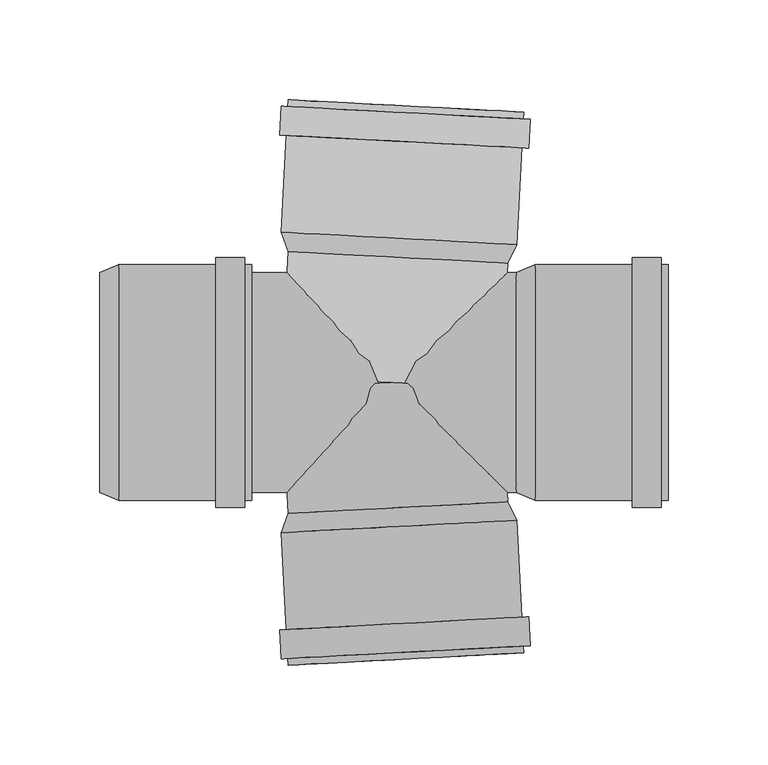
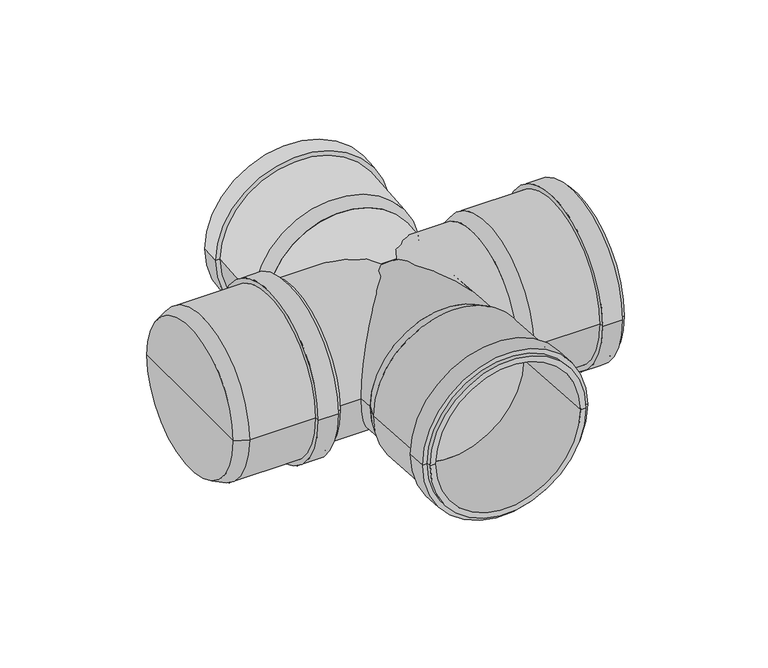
"""IFC4 building model written with IfcOpenShell, lengths in millimetres: pipe fitting geometry, pf_HTDA : pf_HTDA."""

from ifc_helpers import new_model, si_unit, point, frame, origin, origin_2d, place, context, project, spatial, polyline, circle_curve, trimmed, segment, composite_curve, outline, extrude, source, transform, mapped, element, save
from ifc_brep_helpers import plane_surface, cylinder_surface, revolved_surface, advanced_brep


def pipe_fitting_e0f2e87f(model_context):
    return source(origin(), model_context, "Body", "SolidModel", [
        advanced_brep(
        [(58.2113225, 59.8354572, 0.0), (-51.6379264, 65.5924124, 0.0), (-55.2351159, 75.2939704, 0.0), (62.8028951, 69.1078603, 0.0), (3.2866981, 62.7139348, 0.0), (66.2832362, 135.5167244, 0.0), (-51.7547748, 141.7028344, 0.0), (-47.6603937, 141.488257, 0.0), (62.1888551, 135.7313018, 0.0), (66.105294, 132.121384, 0.0), (-51.932717, 138.307494, 0.0), (69.5006344, 131.9434417, 0.0), (-55.3280574, 138.4854363, 0.0), (68.741763, 117.4633135, 0.0), (-56.0869288, 124.005308, 0.0), (65.3464226, 117.6412557, 0.0), (-52.6915884, 123.8273658, 0.0), (58.708514, 69.3224378, 0.0), (-51.1407348, 75.079393, 0.0), (3.7838896, 72.2009154, 0.0)],
        [
            (0, 1, circle_curve(frame((3.2866981, 62.7139348, 0.0), z_axis=(0.05233595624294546, 0.9986295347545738, 0.0), x_axis=(-0.9986295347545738, 0.05233595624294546, 0.0)), 55.0)),
            (1, 2),
            (2, 3, circle_curve(frame((3.7838896, 72.2009154, 0.0), z_axis=(-0.05233595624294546, -0.9986295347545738, 0.0), x_axis=(-0.9986295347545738, 0.05233595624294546, 0.0)), 59.1)),
            (3, 0),
            (1, 0, circle_curve(frame((3.2866981, 62.7139348, 0.0), z_axis=(0.05233595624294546, 0.9986295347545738, 0.0), x_axis=(-0.9986295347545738, 0.05233595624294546, 0.0)), 55.0)),
            (3, 2, circle_curve(frame((3.7838896, 72.2009154, 0.0), z_axis=(-0.05233595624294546, -0.9986295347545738, 0.0), x_axis=(-0.9986295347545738, 0.05233595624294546, 0.0)), 59.1)),
            (4, 1),
            (0, 4),
            (5, 6, circle_curve(frame((7.2642307, 138.6097794, 0.0), z_axis=(0.05233595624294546, 0.9986295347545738, 0.0), x_axis=(-0.9986295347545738, 0.05233595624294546, 0.0)), 59.1)),
            (6, 7),
            (7, 8, circle_curve(frame((7.2642307, 138.6097794, 0.0), z_axis=(-0.05233595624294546, -0.9986295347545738, 0.0), x_axis=(-0.9986295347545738, 0.05233595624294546, 0.0)), 55.0)),
            (8, 5),
            (6, 5, circle_curve(frame((7.2642307, 138.6097794, 0.0), z_axis=(0.05233595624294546, 0.9986295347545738, 0.0), x_axis=(-0.9986295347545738, 0.05233595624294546, 0.0)), 59.1)),
            (8, 7, circle_curve(frame((7.2642307, 138.6097794, 0.0), z_axis=(-0.05233595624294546, -0.9986295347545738, 0.0), x_axis=(-0.9986295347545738, 0.05233595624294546, 0.0)), 55.0)),
            (9, 10, circle_curve(frame((7.0862885, 135.214439, 0.0), z_axis=(0.05233595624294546, 0.9986295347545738, 0.0), x_axis=(-0.9986295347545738, 0.05233595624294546, 0.0)), 59.1)),
            (10, 6),
            (5, 9),
            (10, 9, circle_curve(frame((7.0862885, 135.214439, 0.0), z_axis=(0.05233595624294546, 0.9986295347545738, 0.0), x_axis=(-0.9986295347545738, 0.05233595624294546, 0.0)), 59.1)),
            (11, 12, circle_curve(frame((7.0862885, 135.214439, 0.0), z_axis=(0.05233595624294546, 0.9986295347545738, 0.0), x_axis=(-0.9986295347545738, 0.05233595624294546, 0.0)), 62.5)),
            (12, 10),
            (9, 11),
            (12, 11, circle_curve(frame((7.0862885, 135.214439, 0.0), z_axis=(0.05233595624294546, 0.9986295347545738, 0.0), x_axis=(-0.9986295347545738, 0.05233595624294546, 0.0)), 62.5)),
            (13, 14, circle_curve(frame((6.3274171, 120.7343108, 0.0), z_axis=(0.05233595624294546, 0.9986295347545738, 0.0), x_axis=(-0.9986295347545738, 0.05233595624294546, 0.0)), 62.5)),
            (14, 12),
            (11, 13),
            (14, 13, circle_curve(frame((6.3274171, 120.7343108, 0.0), z_axis=(0.05233595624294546, 0.9986295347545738, 0.0), x_axis=(-0.9986295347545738, 0.05233595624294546, 0.0)), 62.5)),
            (15, 16, circle_curve(frame((6.3274171, 120.7343108, 0.0), z_axis=(0.05233595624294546, 0.9986295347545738, 0.0), x_axis=(-0.9986295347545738, 0.05233595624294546, 0.0)), 59.1)),
            (16, 14),
            (13, 15),
            (16, 15, circle_curve(frame((6.3274171, 120.7343108, 0.0), z_axis=(0.05233595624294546, 0.9986295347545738, 0.0), x_axis=(-0.9986295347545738, 0.05233595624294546, 0.0)), 59.1)),
            (2, 16),
            (15, 3),
            (17, 18, circle_curve(frame((3.7838896, 72.2009154, 0.0), z_axis=(0.05233595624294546, 0.9986295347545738, 0.0), x_axis=(-0.9986295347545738, 0.05233595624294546, 0.0)), 55.0)),
            (18, 19),
            (19, 17),
            (18, 17, circle_curve(frame((3.7838896, 72.2009154, 0.0), z_axis=(0.05233595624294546, 0.9986295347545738, 0.0), x_axis=(-0.9986295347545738, 0.05233595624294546, 0.0)), 55.0)),
            (7, 18),
            (17, 8),
        ],
        [
            revolved_surface(polyline([(-55.2351159, 75.2939704, 0.0), (-51.6379264, 65.5924124, 0.0)]), (3.2866981, 62.7139348, 0.0), (-0.05233595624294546, -0.9986295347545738, 0.0)),
            plane_surface(frame((3.2866981, 62.7139348, 0.0), z_axis=(-0.05233595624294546, -0.9986295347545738, 0.0), x_axis=(-0.9986295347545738, 0.05233595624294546, 0.0))),
            plane_surface(frame((7.2642307, 138.6097794, 0.0), z_axis=(0.05233595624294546, 0.9986295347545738, 0.0), x_axis=(-0.9986295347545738, 0.05233595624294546, 0.0))),
            cylinder_surface(frame((3.2866981, 62.7139348, 0.0), z_axis=(-0.05233595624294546, -0.9986295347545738, 0.0), x_axis=(-0.9986295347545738, 0.05233595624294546, 0.0)), 59.1),
            plane_surface(frame((7.0862885, 135.214439, 0.0), z_axis=(0.05233595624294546, 0.9986295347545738, 0.0), x_axis=(-0.9986295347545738, 0.05233595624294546, 0.0))),
            cylinder_surface(frame((3.2866981, 62.7139348, 0.0), z_axis=(-0.05233595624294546, -0.9986295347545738, 0.0), x_axis=(-0.9986295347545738, 0.05233595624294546, 0.0)), 62.5),
            plane_surface(frame((6.3274171, 120.7343108, 0.0), z_axis=(-0.05233595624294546, -0.9986295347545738, 0.0), x_axis=(-0.9986295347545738, 0.05233595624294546, 0.0))),
            plane_surface(frame((3.7838896, 72.2009154, 0.0), z_axis=(0.05233595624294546, 0.9986295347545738, 0.0), x_axis=(-0.9986295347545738, 0.05233595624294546, 0.0))),
            revolved_surface(polyline([(-51.14073472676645, 75.07939298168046, 0.0), (-47.660393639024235, 141.4882569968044, 0.0)]), (3.2866981, 62.7139348, 0.0), (-0.05233595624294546, -0.9986295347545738, 0.0)),
        ],
        [
            (0, [[1, 2, 3, 4]]),
            (0, [[5, -4, 6, -2]]),
            (1, [[7, -1, 8]]),
            (1, [[-8, -5, -7]]),
            (2, [[9, 10, 11, 12]]),
            (2, [[13, -12, 14, -10]]),
            (3, [[15, 16, -9, 17]]),
            (3, [[18, -17, -13, -16]]),
            (4, [[19, 20, -15, 21]]),
            (4, [[22, -21, -18, -20]]),
            (5, [[23, 24, -19, 25]]),
            (5, [[26, -25, -22, -24]]),
            (6, [[27, 28, -23, 29]]),
            (6, [[30, -29, -26, -28]]),
            (3, [[-3, 31, -27, 32]]),
            (3, [[-6, -32, -30, -31]]),
            (7, [[33, 34, 35]]),
            (7, [[36, -35, -34]]),
            (8, [[-11, 37, -33, 38]]),
            (8, [[-14, -38, -36, -37]]),
        ],
    ),
        advanced_brep(
        [(-51.6379264, -65.5924124, 0.0), (58.2113225, -59.8354572, 0.0), (62.8028951, -69.1078603, 0.0), (-55.2351159, -75.2939704, 0.0), (3.2866981, -62.7139348, 0.0), (-51.7547748, -141.7028344, 0.0), (66.2832362, -135.5167244, 0.0), (62.1888551, -135.7313018, 0.0), (-47.6603937, -141.488257, 0.0), (-51.932717, -138.307494, 0.0), (66.105294, -132.121384, 0.0), (-55.3280574, -138.4854363, 0.0), (69.5006344, -131.9434417, 0.0), (-56.0869288, -124.005308, 0.0), (68.741763, -117.4633135, 0.0), (-52.6915884, -123.8273658, 0.0), (65.3464226, -117.6412557, 0.0), (-51.1407348, -75.079393, 0.0), (58.708514, -69.3224378, 0.0), (3.7838896, -72.2009154, 0.0)],
        [
            (0, 1, circle_curve(frame((3.2866981, -62.7139348, 0.0), z_axis=(0.05233595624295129, -0.9986295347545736, 0.0), x_axis=(0.9986295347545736, 0.05233595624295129, 0.0)), 55.0)),
            (1, 2),
            (2, 3, circle_curve(frame((3.7838896, -72.2009154, 0.0), z_axis=(-0.05233595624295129, 0.9986295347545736, 0.0), x_axis=(0.9986295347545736, 0.05233595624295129, 0.0)), 59.1)),
            (3, 0),
            (1, 0, circle_curve(frame((3.2866981, -62.7139348, 0.0), z_axis=(0.05233595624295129, -0.9986295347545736, 0.0), x_axis=(0.9986295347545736, 0.05233595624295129, 0.0)), 55.0)),
            (3, 2, circle_curve(frame((3.7838896, -72.2009154, 0.0), z_axis=(-0.05233595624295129, 0.9986295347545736, 0.0), x_axis=(0.9986295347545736, 0.05233595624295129, 0.0)), 59.1)),
            (4, 1),
            (0, 4),
            (5, 6, circle_curve(frame((7.2642307, -138.6097794, 0.0), z_axis=(0.05233595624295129, -0.9986295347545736, 0.0), x_axis=(0.9986295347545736, 0.05233595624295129, 0.0)), 59.1)),
            (6, 7),
            (7, 8, circle_curve(frame((7.2642307, -138.6097794, 0.0), z_axis=(-0.05233595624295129, 0.9986295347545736, 0.0), x_axis=(0.9986295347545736, 0.05233595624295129, 0.0)), 55.0)),
            (8, 5),
            (6, 5, circle_curve(frame((7.2642307, -138.6097794, 0.0), z_axis=(0.05233595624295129, -0.9986295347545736, 0.0), x_axis=(0.9986295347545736, 0.05233595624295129, 0.0)), 59.1)),
            (8, 7, circle_curve(frame((7.2642307, -138.6097794, 0.0), z_axis=(-0.05233595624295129, 0.9986295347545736, 0.0), x_axis=(0.9986295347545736, 0.05233595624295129, 0.0)), 55.0)),
            (9, 10, circle_curve(frame((7.0862885, -135.214439, 0.0), z_axis=(0.05233595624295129, -0.9986295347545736, 0.0), x_axis=(0.9986295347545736, 0.05233595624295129, 0.0)), 59.1)),
            (10, 6),
            (5, 9),
            (10, 9, circle_curve(frame((7.0862885, -135.214439, 0.0), z_axis=(0.05233595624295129, -0.9986295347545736, 0.0), x_axis=(0.9986295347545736, 0.05233595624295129, 0.0)), 59.1)),
            (11, 12, circle_curve(frame((7.0862885, -135.214439, 0.0), z_axis=(0.05233595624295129, -0.9986295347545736, 0.0), x_axis=(0.9986295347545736, 0.05233595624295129, 0.0)), 62.5)),
            (12, 10),
            (9, 11),
            (12, 11, circle_curve(frame((7.0862885, -135.214439, 0.0), z_axis=(0.05233595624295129, -0.9986295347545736, 0.0), x_axis=(0.9986295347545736, 0.05233595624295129, 0.0)), 62.5)),
            (13, 14, circle_curve(frame((6.3274171, -120.7343108, 0.0), z_axis=(0.05233595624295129, -0.9986295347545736, 0.0), x_axis=(0.9986295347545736, 0.05233595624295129, 0.0)), 62.5)),
            (14, 12),
            (11, 13),
            (14, 13, circle_curve(frame((6.3274171, -120.7343108, 0.0), z_axis=(0.05233595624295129, -0.9986295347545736, 0.0), x_axis=(0.9986295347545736, 0.05233595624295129, 0.0)), 62.5)),
            (15, 16, circle_curve(frame((6.3274171, -120.7343108, 0.0), z_axis=(0.05233595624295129, -0.9986295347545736, 0.0), x_axis=(0.9986295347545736, 0.05233595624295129, 0.0)), 59.1)),
            (16, 14),
            (13, 15),
            (16, 15, circle_curve(frame((6.3274171, -120.7343108, 0.0), z_axis=(0.05233595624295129, -0.9986295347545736, 0.0), x_axis=(0.9986295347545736, 0.05233595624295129, 0.0)), 59.1)),
            (2, 16),
            (15, 3),
            (17, 18, circle_curve(frame((3.7838896, -72.2009154, 0.0), z_axis=(0.05233595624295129, -0.9986295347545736, 0.0), x_axis=(0.9986295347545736, 0.05233595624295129, 0.0)), 55.0)),
            (18, 19),
            (19, 17),
            (18, 17, circle_curve(frame((3.7838896, -72.2009154, 0.0), z_axis=(0.05233595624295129, -0.9986295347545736, 0.0), x_axis=(0.9986295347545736, 0.05233595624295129, 0.0)), 55.0)),
            (7, 18),
            (17, 8),
        ],
        [
            revolved_surface(polyline([(62.8028951, -69.1078603, 0.0), (58.2113225, -59.8354572, 0.0)]), (3.2866981, -62.7139348, 0.0), (-0.05233595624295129, 0.9986295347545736, 0.0)),
            plane_surface(frame((3.2866981, -62.7139348, 0.0), z_axis=(-0.05233595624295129, 0.9986295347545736, 0.0), x_axis=(0.9986295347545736, 0.05233595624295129, 0.0))),
            plane_surface(frame((7.2642307, -138.6097794, 0.0), z_axis=(0.05233595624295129, -0.9986295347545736, 0.0), x_axis=(0.9986295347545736, 0.05233595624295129, 0.0))),
            cylinder_surface(frame((3.2866981, -62.7139348, 0.0), z_axis=(-0.05233595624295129, 0.9986295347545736, 0.0), x_axis=(0.9986295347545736, 0.05233595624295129, 0.0)), 59.1),
            plane_surface(frame((7.0862885, -135.214439, 0.0), z_axis=(0.05233595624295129, -0.9986295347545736, 0.0), x_axis=(0.9986295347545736, 0.05233595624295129, 0.0))),
            cylinder_surface(frame((3.2866981, -62.7139348, 0.0), z_axis=(-0.05233595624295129, 0.9986295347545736, 0.0), x_axis=(0.9986295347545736, 0.05233595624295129, 0.0)), 62.5),
            plane_surface(frame((6.3274171, -120.7343108, 0.0), z_axis=(-0.05233595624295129, 0.9986295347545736, 0.0), x_axis=(0.9986295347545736, 0.05233595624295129, 0.0))),
            plane_surface(frame((3.7838896, -72.2009154, 0.0), z_axis=(0.05233595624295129, -0.9986295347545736, 0.0), x_axis=(0.9986295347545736, 0.05233595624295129, 0.0))),
            revolved_surface(polyline([(58.708514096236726, -69.32243779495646, 0.0), (62.1888551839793, -135.73130181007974, 0.0)]), (3.2866981, -62.7139348, 0.0), (-0.05233595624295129, 0.9986295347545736, 0.0)),
        ],
        [
            (0, [[1, 2, 3, 4]]),
            (0, [[5, -4, 6, -2]]),
            (1, [[7, -1, 8]]),
            (1, [[-8, -5, -7]]),
            (2, [[9, 10, 11, 12]]),
            (2, [[13, -12, 14, -10]]),
            (3, [[15, 16, -9, 17]]),
            (3, [[18, -17, -13, -16]]),
            (4, [[19, 20, -15, 21]]),
            (4, [[22, -21, -18, -20]]),
            (5, [[23, 24, -19, 25]]),
            (5, [[26, -25, -22, -24]]),
            (6, [[27, 28, -23, 29]]),
            (6, [[30, -29, -26, -28]]),
            (3, [[-3, 31, -27, 32]]),
            (3, [[-6, -32, -30, -31]]),
            (7, [[33, 34, 35]]),
            (7, [[36, -35, -34]]),
            (8, [[-11, 37, -33, 38]]),
            (8, [[-14, -38, -36, -37]]),
        ],
    ),
        advanced_brep(
        [(62.6, -55.0, 0.0), (62.6, 55.0, 0.0), (72.1, 59.1, 0.0), (72.1, -59.1, 0.0), (62.6, 0.0, 0.0), (138.6, -59.1, 0.0), (138.6, 59.1, 0.0), (138.6, 55.0, 0.0), (138.6, -55.0, 0.0), (135.2, -59.1, 0.0), (135.2, 59.1, 0.0), (135.2, -62.5, 0.0), (135.2, 62.5, 0.0), (120.7, -62.5, 0.0), (120.7, 62.5, 0.0), (120.7, -59.1, 0.0), (120.7, 59.1, 0.0), (72.1, -55.0, 0.0), (72.1, 55.0, 0.0), (72.1, 0.0, 0.0)],
        [
            (0, 1, circle_curve(frame((62.6, 0.0, 0.0), z_axis=(1.0, 0.0, 0.0), x_axis=(0.0, 1.0, 0.0)), 55.0)),
            (1, 2),
            (2, 3, circle_curve(frame((72.1, 0.0, 0.0), z_axis=(-1.0, 0.0, 0.0), x_axis=(0.0, 1.0, 0.0)), 59.1)),
            (3, 0),
            (1, 0, circle_curve(frame((62.6, 0.0, 0.0), z_axis=(1.0, 0.0, 0.0), x_axis=(0.0, 1.0, 0.0)), 55.0)),
            (3, 2, circle_curve(frame((72.1, 0.0, 0.0), z_axis=(-1.0, 0.0, 0.0), x_axis=(0.0, 1.0, 0.0)), 59.1)),
            (4, 1),
            (0, 4),
            (5, 6, circle_curve(frame((138.6, 0.0, 0.0), z_axis=(1.0, 0.0, 0.0), x_axis=(0.0, 1.0, 0.0)), 59.1)),
            (6, 7),
            (7, 8, circle_curve(frame((138.6, 0.0, 0.0), z_axis=(-1.0, 0.0, 0.0), x_axis=(0.0, 1.0, 0.0)), 55.0)),
            (8, 5),
            (6, 5, circle_curve(frame((138.6, 0.0, 0.0), z_axis=(1.0, 0.0, 0.0), x_axis=(0.0, 1.0, 0.0)), 59.1)),
            (8, 7, circle_curve(frame((138.6, 0.0, 0.0), z_axis=(-1.0, 0.0, 0.0), x_axis=(0.0, 1.0, 0.0)), 55.0)),
            (9, 10, circle_curve(frame((135.2, 0.0, 0.0), z_axis=(1.0, 0.0, 0.0), x_axis=(0.0, 1.0, 0.0)), 59.1)),
            (10, 6),
            (5, 9),
            (10, 9, circle_curve(frame((135.2, 0.0, 0.0), z_axis=(1.0, 0.0, 0.0), x_axis=(0.0, 1.0, 0.0)), 59.1)),
            (11, 12, circle_curve(frame((135.2, 0.0, 0.0), z_axis=(1.0, 0.0, 0.0), x_axis=(0.0, 1.0, 0.0)), 62.5)),
            (12, 10),
            (9, 11),
            (12, 11, circle_curve(frame((135.2, 0.0, 0.0), z_axis=(1.0, 0.0, 0.0), x_axis=(0.0, 1.0, 0.0)), 62.5)),
            (13, 14, circle_curve(frame((120.7, 0.0, 0.0), z_axis=(1.0, 0.0, 0.0), x_axis=(0.0, 1.0, 0.0)), 62.5)),
            (14, 12),
            (11, 13),
            (14, 13, circle_curve(frame((120.7, 0.0, 0.0), z_axis=(1.0, 0.0, 0.0), x_axis=(0.0, 1.0, 0.0)), 62.5)),
            (15, 16, circle_curve(frame((120.7, 0.0, 0.0), z_axis=(1.0, 0.0, 0.0), x_axis=(0.0, 1.0, 0.0)), 59.1)),
            (16, 14),
            (13, 15),
            (16, 15, circle_curve(frame((120.7, 0.0, 0.0), z_axis=(1.0, 0.0, 0.0), x_axis=(0.0, 1.0, 0.0)), 59.1)),
            (2, 16),
            (15, 3),
            (17, 18, circle_curve(frame((72.1, 0.0, 0.0), z_axis=(1.0, 0.0, 0.0), x_axis=(0.0, 1.0, 0.0)), 55.0)),
            (18, 19),
            (19, 17),
            (18, 17, circle_curve(frame((72.1, 0.0, 0.0), z_axis=(1.0, 0.0, 0.0), x_axis=(0.0, 1.0, 0.0)), 55.0)),
            (7, 18),
            (17, 8),
        ],
        [
            revolved_surface(polyline([(72.1, 59.1, 0.0), (62.6, 55.0, 0.0)]), (62.6, 0.0, 0.0), (-1.0, 0.0, 0.0)),
            plane_surface(frame((62.6, 0.0, 0.0), z_axis=(-1.0, 0.0, 0.0), x_axis=(0.0, 1.0, 0.0))),
            plane_surface(frame((138.6, 0.0, 0.0), z_axis=(1.0, 0.0, 0.0), x_axis=(0.0, 1.0, 0.0))),
            cylinder_surface(frame((62.6, 0.0, 0.0), z_axis=(-1.0, 0.0, 0.0), x_axis=(0.0, 1.0, 0.0)), 59.1),
            plane_surface(frame((135.2, 0.0, 0.0), z_axis=(1.0, 0.0, 0.0), x_axis=(0.0, 1.0, 0.0))),
            cylinder_surface(frame((62.6, 0.0, 0.0), z_axis=(-1.0, 0.0, 0.0), x_axis=(0.0, 1.0, 0.0)), 62.5),
            plane_surface(frame((120.7, 0.0, 0.0), z_axis=(-1.0, 0.0, 0.0), x_axis=(0.0, 1.0, 0.0))),
            plane_surface(frame((72.1, 0.0, 0.0), z_axis=(1.0, 0.0, 0.0), x_axis=(0.0, 1.0, 0.0))),
            revolved_surface(polyline([(72.1, 55.0, 0.0), (138.6, 55.0, 0.0)]), (62.6, 0.0, 0.0), (-1.0, 0.0, 0.0)),
        ],
        [
            (0, [[1, 2, 3, 4]]),
            (0, [[5, -4, 6, -2]]),
            (1, [[7, -1, 8]]),
            (1, [[-8, -5, -7]]),
            (2, [[9, 10, 11, 12]]),
            (2, [[13, -12, 14, -10]]),
            (3, [[15, 16, -9, 17]]),
            (3, [[18, -17, -13, -16]]),
            (4, [[19, 20, -15, 21]]),
            (4, [[22, -21, -18, -20]]),
            (5, [[23, 24, -19, 25]]),
            (5, [[26, -25, -22, -24]]),
            (6, [[27, 28, -23, 29]]),
            (6, [[30, -29, -26, -28]]),
            (3, [[-3, 31, -27, 32]]),
            (3, [[-6, -32, -30, -31]]),
            (7, [[33, 34, 35]]),
            (7, [[36, -35, -34]]),
            (8, [[-11, 37, -33, 38]]),
            (8, [[-14, -38, -36, -37]]),
        ],
    ),
        advanced_brep(
        [(-146.1, -55.0, 0.0), (-146.1, 55.0, 0.0), (-136.6, 59.1, 0.0), (-136.6, -59.1, 0.0), (-146.1, 0.0, 0.0), (-70.1, -59.1, 0.0), (-70.1, 59.1, 0.0), (-70.1, 55.0, 0.0), (-70.1, -55.0, 0.0), (-73.5, -59.1, 0.0), (-73.5, 59.1, 0.0), (-73.5, -62.5, 0.0), (-73.5, 62.5, 0.0), (-88.0, -62.5, 0.0), (-88.0, 62.5, 0.0), (-88.0, -59.1, 0.0), (-88.0, 59.1, 0.0), (-136.6, -55.0, 0.0), (-136.6, 55.0, 0.0), (-136.6, 0.0, 0.0)],
        [
            (0, 1, circle_curve(frame((-146.1, 0.0, 0.0), z_axis=(1.0, 0.0, 0.0), x_axis=(0.0, 1.0, 0.0)), 55.0)),
            (1, 2),
            (2, 3, circle_curve(frame((-136.6, 0.0, 0.0), z_axis=(-1.0, 0.0, 0.0), x_axis=(0.0, 1.0, 0.0)), 59.1)),
            (3, 0),
            (1, 0, circle_curve(frame((-146.1, 0.0, 0.0), z_axis=(1.0, 0.0, 0.0), x_axis=(0.0, 1.0, 0.0)), 55.0)),
            (3, 2, circle_curve(frame((-136.6, 0.0, 0.0), z_axis=(-1.0, 0.0, 0.0), x_axis=(0.0, 1.0, 0.0)), 59.1)),
            (4, 1),
            (0, 4),
            (5, 6, circle_curve(frame((-70.1, 0.0, 0.0), z_axis=(1.0, 0.0, 0.0), x_axis=(0.0, 1.0, 0.0)), 59.1)),
            (6, 7),
            (7, 8, circle_curve(frame((-70.1, 0.0, 0.0), z_axis=(-1.0, 0.0, 0.0), x_axis=(0.0, 1.0, 0.0)), 55.0)),
            (8, 5),
            (6, 5, circle_curve(frame((-70.1, 0.0, 0.0), z_axis=(1.0, 0.0, 0.0), x_axis=(0.0, 1.0, 0.0)), 59.1)),
            (8, 7, circle_curve(frame((-70.1, 0.0, 0.0), z_axis=(-1.0, 0.0, 0.0), x_axis=(0.0, 1.0, 0.0)), 55.0)),
            (9, 10, circle_curve(frame((-73.5, 0.0, 0.0), z_axis=(1.0, 0.0, 0.0), x_axis=(0.0, 1.0, 0.0)), 59.1)),
            (10, 6),
            (5, 9),
            (10, 9, circle_curve(frame((-73.5, 0.0, 0.0), z_axis=(1.0, 0.0, 0.0), x_axis=(0.0, 1.0, 0.0)), 59.1)),
            (11, 12, circle_curve(frame((-73.5, 0.0, 0.0), z_axis=(1.0, 0.0, 0.0), x_axis=(0.0, 1.0, 0.0)), 62.5)),
            (12, 10),
            (9, 11),
            (12, 11, circle_curve(frame((-73.5, 0.0, 0.0), z_axis=(1.0, 0.0, 0.0), x_axis=(0.0, 1.0, 0.0)), 62.5)),
            (13, 14, circle_curve(frame((-88.0, 0.0, 0.0), z_axis=(1.0, 0.0, 0.0), x_axis=(0.0, 1.0, 0.0)), 62.5)),
            (14, 12),
            (11, 13),
            (14, 13, circle_curve(frame((-88.0, 0.0, 0.0), z_axis=(1.0, 0.0, 0.0), x_axis=(0.0, 1.0, 0.0)), 62.5)),
            (15, 16, circle_curve(frame((-88.0, 0.0, 0.0), z_axis=(1.0, 0.0, 0.0), x_axis=(0.0, 1.0, 0.0)), 59.1)),
            (16, 14),
            (13, 15),
            (16, 15, circle_curve(frame((-88.0, 0.0, 0.0), z_axis=(1.0, 0.0, 0.0), x_axis=(0.0, 1.0, 0.0)), 59.1)),
            (2, 16),
            (15, 3),
            (17, 18, circle_curve(frame((-136.6, 0.0, 0.0), z_axis=(1.0, 0.0, 0.0), x_axis=(0.0, 1.0, 0.0)), 55.0)),
            (18, 19),
            (19, 17),
            (18, 17, circle_curve(frame((-136.6, 0.0, 0.0), z_axis=(1.0, 0.0, 0.0), x_axis=(0.0, 1.0, 0.0)), 55.0)),
            (7, 18),
            (17, 8),
        ],
        [
            revolved_surface(polyline([(-136.6, 59.1, 0.0), (-146.1, 55.0, 0.0)]), (-146.1, 0.0, 0.0), (-1.0, 0.0, 0.0)),
            plane_surface(frame((-146.1, 0.0, 0.0), z_axis=(-1.0, 0.0, 0.0), x_axis=(0.0, 1.0, 0.0))),
            plane_surface(frame((-70.1, 0.0, 0.0), z_axis=(1.0, 0.0, 0.0), x_axis=(0.0, 1.0, 0.0))),
            cylinder_surface(frame((-146.1, 0.0, 0.0), z_axis=(-1.0, 0.0, 0.0), x_axis=(0.0, 1.0, 0.0)), 59.1),
            plane_surface(frame((-73.5, 0.0, 0.0), z_axis=(1.0, 0.0, 0.0), x_axis=(0.0, 1.0, 0.0))),
            cylinder_surface(frame((-146.1, 0.0, 0.0), z_axis=(-1.0, 0.0, 0.0), x_axis=(0.0, 1.0, 0.0)), 62.5),
            plane_surface(frame((-88.0, 0.0, 0.0), z_axis=(-1.0, 0.0, 0.0), x_axis=(0.0, 1.0, 0.0))),
            plane_surface(frame((-136.6, 0.0, 0.0), z_axis=(1.0, 0.0, 0.0), x_axis=(0.0, 1.0, 0.0))),
            revolved_surface(polyline([(-136.6, 55.0, 0.0), (-70.1, 55.0, 0.0)]), (-146.1, 0.0, 0.0), (-1.0, 0.0, 0.0)),
        ],
        [
            (0, [[1, 2, 3, 4]]),
            (0, [[5, -4, 6, -2]]),
            (1, [[7, -1, 8]]),
            (1, [[-8, -5, -7]]),
            (2, [[9, 10, 11, 12]]),
            (2, [[13, -12, 14, -10]]),
            (3, [[15, 16, -9, 17]]),
            (3, [[18, -17, -13, -16]]),
            (4, [[19, 20, -15, 21]]),
            (4, [[22, -21, -18, -20]]),
            (5, [[23, 24, -19, 25]]),
            (5, [[26, -25, -22, -24]]),
            (6, [[27, 28, -23, 29]]),
            (6, [[30, -29, -26, -28]]),
            (3, [[-3, 31, -27, 32]]),
            (3, [[-6, -32, -30, -31]]),
            (7, [[33, 34, 35]]),
            (7, [[36, -35, -34]]),
            (8, [[-11, 37, -33, 38]]),
            (8, [[-14, -38, -36, -37]]),
        ],
    ),
        extrude(outline(composite_curve([segment(trimmed(circle_curve(origin_2d(), 55.0), [point((0.0, 55.0))], [point((0.0, -55.0))], False, "CARTESIAN"), True, "CONTINUOUS"), segment(trimmed(circle_curve(origin_2d(), 55.0), [point((0.0, -55.0))], [point((0.0, 55.0))], False, "CARTESIAN"), True, "CONTINUOUS")], self_intersect=False)), frame((0.0, 0.0, 0.0), z_axis=(0.05233595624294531, 0.9986295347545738, 0.0), x_axis=(0.0, 0.0, 1.0)), (0.0, 0.0, 1.0), 62.8),
        extrude(outline(composite_curve([segment(trimmed(circle_curve(origin_2d(), 55.0), [point((0.0, -55.0000001))], [point((0.0, 55.0))], False, "CARTESIAN"), True, "CONTINUOUS"), segment(trimmed(circle_curve(origin_2d(), 55.0), [point((0.0, 55.0))], [point((0.0, -55.0000001))], False, "CARTESIAN"), True, "CONTINUOUS")], self_intersect=False)), frame((3.2866981, -62.7139348, 0.0), z_axis=(-0.05233595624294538, 0.9986295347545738, 0.0), x_axis=(0.0, 0.0, 1.0)), (0.0, 0.0, 1.0), 62.8),
        extrude(outline(composite_curve([segment(trimmed(circle_curve(origin_2d(), 55.0), [point((-55.0, 0.0))], [point((55.0, 0.0))], False, "CARTESIAN"), True, "CONTINUOUS"), segment(trimmed(circle_curve(origin_2d(), 55.0), [point((55.0, 0.0))], [point((-55.0, 0.0))], False, "CARTESIAN"), True, "CONTINUOUS")], self_intersect=False)), frame((-136.6, 0.0, 0.0), z_axis=(1.0, 0.0, 0.0), x_axis=(0.0, 1.0, 0.0)), (0.0, 0.0, 1.0), 199.2),
    ])


if __name__ == "__main__":
    model = new_model("IFC4")
    model_context = context("Model", 3, world=origin())
    ifc_project = project(units=[si_unit("LENGTHUNIT", "METRE", prefix="MILLI")], contexts=[model_context])
    site = spatial("IfcSite", under=ifc_project)
    building = spatial("IfcBuilding", under=site)
    placement = place(None, origin())
    pipe_fitting_shape = pipe_fitting_e0f2e87f(model_context)
    element("IfcPipeFitting", 1, ObjectType="pf_HTDA : pf_HTDA", at=placement, inside=building, context=model_context, shape_type="MappedRepresentation", body=[
        mapped(pipe_fitting_shape, transform((0.0, 0.0, 0.0), x_axis=(1.0, 0.0, 0.0), y_axis=(0.0, 1.0, 0.0), z_axis=(0.0, 0.0, 1.0))),
    ])
    save(model, "model.ifc")
